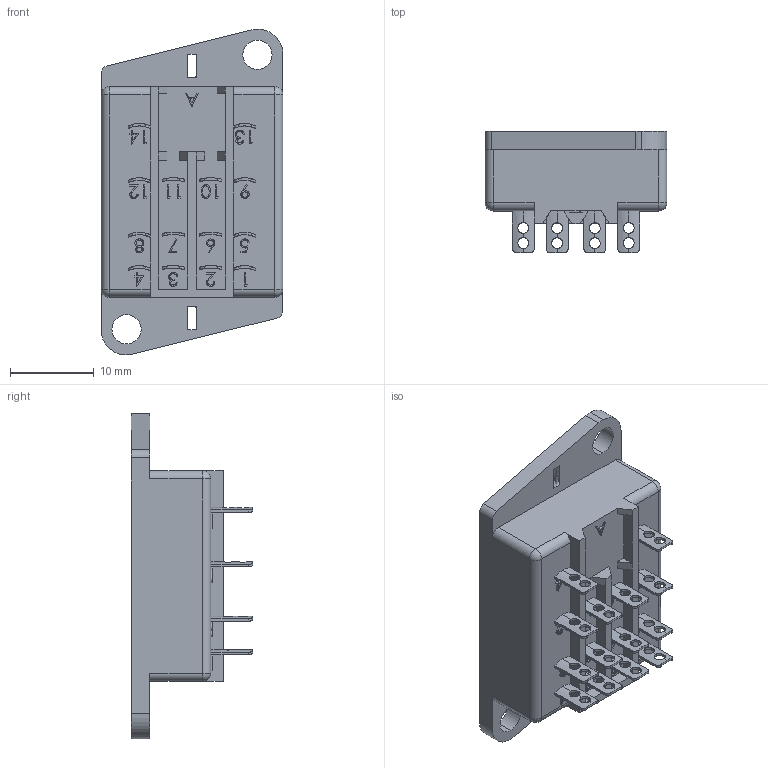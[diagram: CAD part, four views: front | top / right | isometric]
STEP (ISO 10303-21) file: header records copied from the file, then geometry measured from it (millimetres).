
FILE_DESCRIPTION (( 'STEP AP203' ), '1' );
FILE_NAME ('MSO4TF.STEP', '2019-09-12T16:58:30', ( '' ), ( '' ), 'SwSTEP 2.0', 'SolidWorks 2012', '' );
FILE_SCHEMA (( 'CONFIG_CONTROL_DESIGN' ));
Length unit declared in the file: millimetre
Products named in the file (1): MSO4TF
Bounding box: 21.75 x 14.5 x 38.92 mm (x, y, z)
Volume: 5275.6 mm3; surface area: 3599.1 mm2
Topology: 1 solids, 1 shells, 581 faces, 1734 edges, 1144 vertices
Faces by surface type: plane 318, cylinder 161, bspline 98, sphere 4
Entity records: 25935 total; most frequent: CARTESIAN_POINT 11206, ORIENTED_EDGE 3460, DIRECTION 2396, EDGE_CURVE 1730, VERTEX_POINT 1144, VECTOR 1104, LINE 1104, AXIS2_PLACEMENT_3D 646
